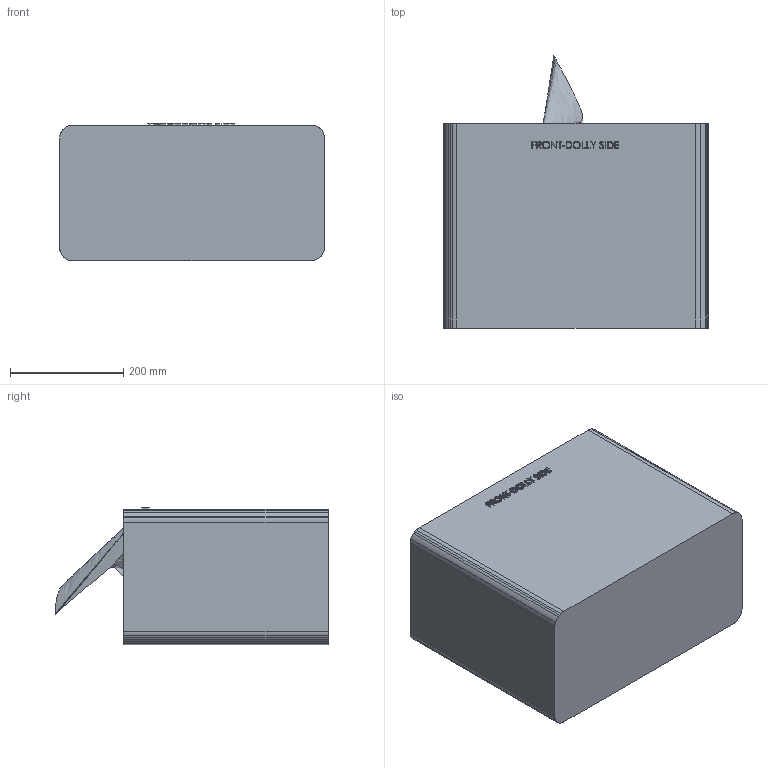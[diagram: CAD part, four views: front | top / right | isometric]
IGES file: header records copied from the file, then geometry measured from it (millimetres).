
Start section: SolidWorks IGES file using analytic representation for surfaces
Bounding box: 467.86 x 481.58 x 242.44 mm (x, y, z)
Surface area: 1176048 mm2 (no closed solid volume)
Topology: 0 solids, 0 shells, 415 faces, 6104 edges, 7189 vertices
Faces by surface type: bspline 321, revolution 94
